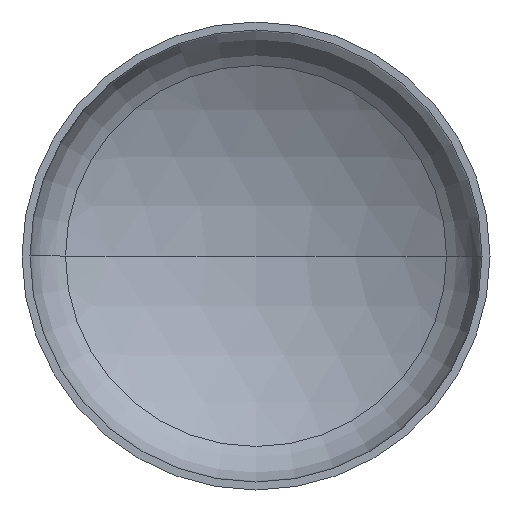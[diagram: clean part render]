
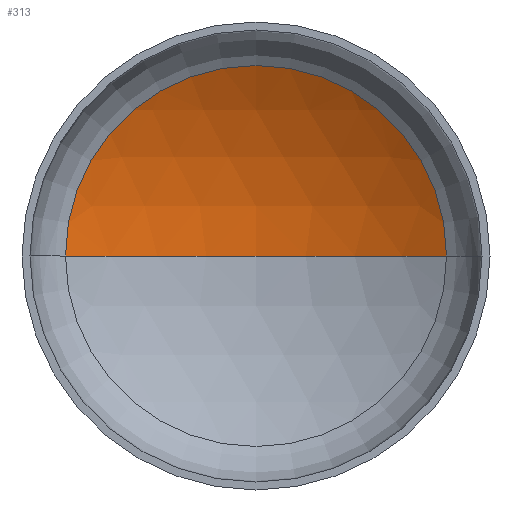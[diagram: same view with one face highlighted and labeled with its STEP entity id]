
A CAD part, front view. The second image highlights one B-rep face of the part: STEP entity #313.
In plain terms, the highlighted spherical face has radius 2720 mm.
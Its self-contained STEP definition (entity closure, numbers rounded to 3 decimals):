
#8 = AXIS2_PLACEMENT_3D ( 'NONE', #249, #222, #291 ) ;
#12 = AXIS2_PLACEMENT_3D ( 'NONE', #316, #89, #162 ) ;
#24 = AXIS2_PLACEMENT_3D ( 'NONE', #198, #276, #239 ) ;
#27 = EDGE_LOOP ( 'NONE', ( #84, #78, #274 ) ) ;
#78 = ORIENTED_EDGE ( 'NONE', *, *, #355, .T. ) ;
#81 = CARTESIAN_POINT ( 'NONE',  ( 0., -1769.533, 0. ) ) ;
#82 = CIRCLE ( 'NONE', #149, 2720. ) ;
#84 = ORIENTED_EDGE ( 'NONE', *, *, #395, .F. ) ;
#89 = DIRECTION ( 'NONE',  ( 0., -1., 0. ) ) ;
#105 = VERTEX_POINT ( 'NONE', #310 ) ;
#119 = CIRCLE ( 'NONE', #12, 1384.164 ) ;
#131 = VERTEX_POINT ( 'NONE', #221 ) ;
#137 = VERTEX_POINT ( 'NONE', #218 ) ;
#149 = AXIS2_PLACEMENT_3D ( 'NONE', #81, #196, #364 ) ;
#162 = DIRECTION ( 'NONE',  ( 1., 0., 0. ) ) ;
#196 = DIRECTION ( 'NONE',  ( 0., 0., 1. ) ) ;
#198 = CARTESIAN_POINT ( 'NONE',  ( 0., -1769.533, 0. ) ) ;
#218 = CARTESIAN_POINT ( 'NONE',  ( 1384.164, 571.938, 0. ) ) ;
#221 = CARTESIAN_POINT ( 'NONE',  ( 0., 950.467, 0. ) ) ;
#222 = DIRECTION ( 'NONE',  ( 0., 0., -1. ) ) ;
#234 = SPHERICAL_SURFACE ( 'NONE', #24, 2720. ) ;
#239 = DIRECTION ( 'NONE',  ( -1., 0., 0. ) ) ;
#249 = CARTESIAN_POINT ( 'NONE',  ( 0., -1769.533, 0. ) ) ;
#274 = ORIENTED_EDGE ( 'NONE', *, *, #352, .T. ) ;
#276 = DIRECTION ( 'NONE',  ( 0., 0., -1. ) ) ;
#281 = FACE_OUTER_BOUND ( 'NONE', #27, .T. ) ;
#291 = DIRECTION ( 'NONE',  ( -1., 0., 0. ) ) ;
#310 = CARTESIAN_POINT ( 'NONE',  ( -1384.164, 571.938, 0. ) ) ;
#313 = ADVANCED_FACE ( 'NONE', ( #281 ), #234, .F. ) ;
#316 = CARTESIAN_POINT ( 'NONE',  ( 0., 571.938, 0. ) ) ;
#352 = EDGE_CURVE ( 'NONE', #137, #105, #119, .T. ) ;
#355 = EDGE_CURVE ( 'NONE', #131, #137, #390, .T. ) ;
#364 = DIRECTION ( 'NONE',  ( 1., 0., 0. ) ) ;
#390 = CIRCLE ( 'NONE', #8, 2720. ) ;
#395 = EDGE_CURVE ( 'NONE', #131, #105, #82, .T. ) ;
